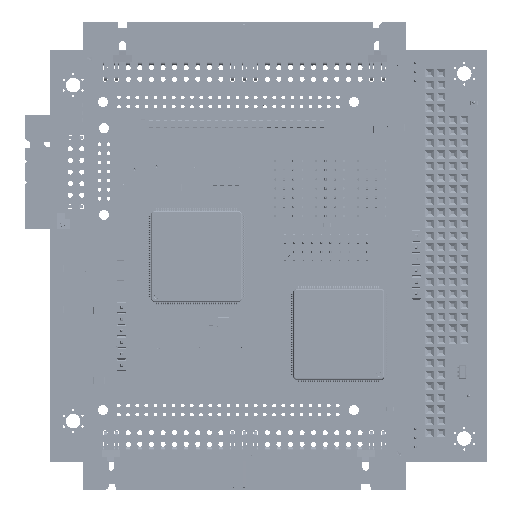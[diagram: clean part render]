
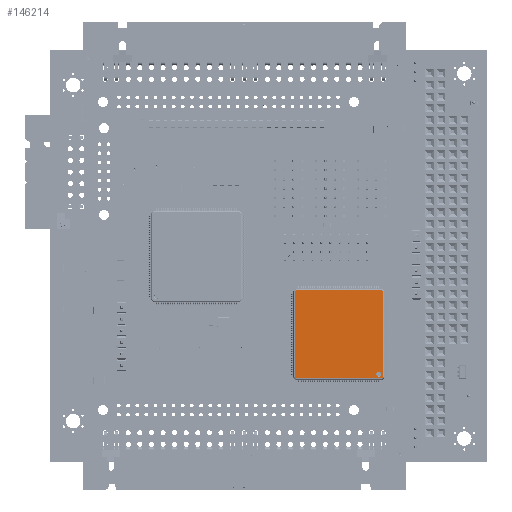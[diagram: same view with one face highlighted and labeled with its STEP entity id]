
A CAD part, top view. The second image highlights one B-rep face of the part: STEP entity #146214.
In plain terms, the highlighted planar face has unit normal (0, 0, 1).
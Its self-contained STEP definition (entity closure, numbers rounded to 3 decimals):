
#146186 = VERTEX_POINT('',#146187);
#146187 = CARTESIAN_POINT('',(-8.75,-9.3,1.6));
#146194 = EDGE_CURVE('',#146195,#146186,#146197,.T.);
#146195 = VERTEX_POINT('',#146196);
#146196 = CARTESIAN_POINT('',(-8.75,-8.2,1.6));
#146197 = CIRCLE('',#146198,0.55);
#146198 = AXIS2_PLACEMENT_3D('',#146199,#146200,#146201);
#146199 = CARTESIAN_POINT('',(-8.75,-8.75,1.6));
#146200 = DIRECTION('',(0.,0.,-1.));
#146201 = DIRECTION('',(0.,1.,0.));
#146214 = ADVANCED_FACE('',(#146215,#146281),#146291,.F.);
#146215 = FACE_BOUND('',#146216,.T.);
#146216 = EDGE_LOOP('',(#146217,#146227,#146235,#146243,#146251,#146259,
    #146267,#146275));
#146217 = ORIENTED_EDGE('',*,*,#146218,.T.);
#146218 = EDGE_CURVE('',#146219,#146221,#146223,.T.);
#146219 = VERTEX_POINT('',#146220);
#146220 = CARTESIAN_POINT('',(9.376,9.701,1.6));
#146221 = VERTEX_POINT('',#146222);
#146222 = CARTESIAN_POINT('',(-9.376,9.701,1.6));
#146223 = LINE('',#146224,#146225);
#146224 = CARTESIAN_POINT('',(-9.456,9.701,1.6));
#146225 = VECTOR('',#146226,1.);
#146226 = DIRECTION('',(-1.,0.,0.));
#146227 = ORIENTED_EDGE('',*,*,#146228,.T.);
#146228 = EDGE_CURVE('',#146221,#146229,#146231,.T.);
#146229 = VERTEX_POINT('',#146230);
#146230 = CARTESIAN_POINT('',(-9.701,9.376,1.6));
#146231 = LINE('',#146232,#146233);
#146232 = CARTESIAN_POINT('',(-9.757,9.32,1.6));
#146233 = VECTOR('',#146234,1.);
#146234 = DIRECTION('',(-0.707,-0.707,0.));
#146235 = ORIENTED_EDGE('',*,*,#146236,.T.);
#146236 = EDGE_CURVE('',#146229,#146237,#146239,.T.);
#146237 = VERTEX_POINT('',#146238);
#146238 = CARTESIAN_POINT('',(-9.701,-9.376,1.6));
#146239 = LINE('',#146240,#146241);
#146240 = CARTESIAN_POINT('',(-9.701,-9.456,1.6));
#146241 = VECTOR('',#146242,1.);
#146242 = DIRECTION('',(0.,-1.,0.));
#146243 = ORIENTED_EDGE('',*,*,#146244,.T.);
#146244 = EDGE_CURVE('',#146237,#146245,#146247,.T.);
#146245 = VERTEX_POINT('',#146246);
#146246 = CARTESIAN_POINT('',(-9.376,-9.701,1.6));
#146247 = LINE('',#146248,#146249);
#146248 = CARTESIAN_POINT('',(-9.32,-9.757,1.6));
#146249 = VECTOR('',#146250,1.);
#146250 = DIRECTION('',(0.707,-0.707,0.));
#146251 = ORIENTED_EDGE('',*,*,#146252,.T.);
#146252 = EDGE_CURVE('',#146245,#146253,#146255,.T.);
#146253 = VERTEX_POINT('',#146254);
#146254 = CARTESIAN_POINT('',(9.376,-9.701,1.6));
#146255 = LINE('',#146256,#146257);
#146256 = CARTESIAN_POINT('',(9.456,-9.701,1.6));
#146257 = VECTOR('',#146258,1.);
#146258 = DIRECTION('',(1.,0.,0.));
#146259 = ORIENTED_EDGE('',*,*,#146260,.T.);
#146260 = EDGE_CURVE('',#146253,#146261,#146263,.T.);
#146261 = VERTEX_POINT('',#146262);
#146262 = CARTESIAN_POINT('',(9.701,-9.376,1.6));
#146263 = LINE('',#146264,#146265);
#146264 = CARTESIAN_POINT('',(9.757,-9.32,1.6));
#146265 = VECTOR('',#146266,1.);
#146266 = DIRECTION('',(0.707,0.707,0.));
#146267 = ORIENTED_EDGE('',*,*,#146268,.T.);
#146268 = EDGE_CURVE('',#146261,#146269,#146271,.T.);
#146269 = VERTEX_POINT('',#146270);
#146270 = CARTESIAN_POINT('',(9.701,9.376,1.6));
#146271 = LINE('',#146272,#146273);
#146272 = CARTESIAN_POINT('',(9.701,9.456,1.6));
#146273 = VECTOR('',#146274,1.);
#146274 = DIRECTION('',(0.,1.,0.));
#146275 = ORIENTED_EDGE('',*,*,#146276,.T.);
#146276 = EDGE_CURVE('',#146269,#146219,#146277,.T.);
#146277 = LINE('',#146278,#146279);
#146278 = CARTESIAN_POINT('',(9.32,9.757,1.6));
#146279 = VECTOR('',#146280,1.);
#146280 = DIRECTION('',(-0.707,0.707,0.));
#146281 = FACE_BOUND('',#146282,.T.);
#146282 = EDGE_LOOP('',(#146283,#146284));
#146283 = ORIENTED_EDGE('',*,*,#146194,.T.);
#146284 = ORIENTED_EDGE('',*,*,#146285,.T.);
#146285 = EDGE_CURVE('',#146186,#146195,#146286,.T.);
#146286 = CIRCLE('',#146287,0.55);
#146287 = AXIS2_PLACEMENT_3D('',#146288,#146289,#146290);
#146288 = CARTESIAN_POINT('',(-8.75,-8.75,1.6));
#146289 = DIRECTION('',(0.,0.,-1.));
#146290 = DIRECTION('',(0.,1.,0.));
#146291 = PLANE('',#146292);
#146292 = AXIS2_PLACEMENT_3D('',#146293,#146294,#146295);
#146293 = CARTESIAN_POINT('',(0.,0.,1.6));
#146294 = DIRECTION('',(0.,0.,-1.));
#146295 = DIRECTION('',(0.,1.,0.));
